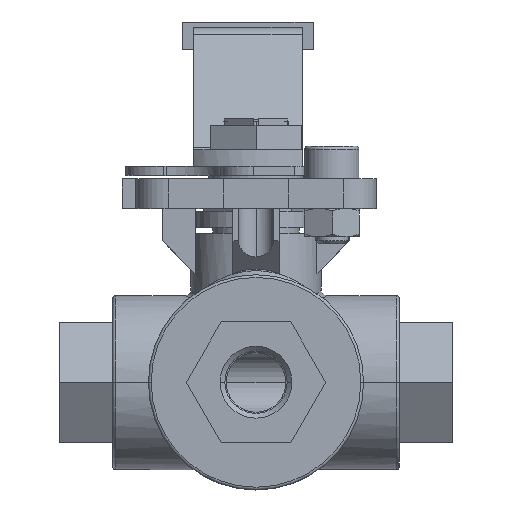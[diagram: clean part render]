
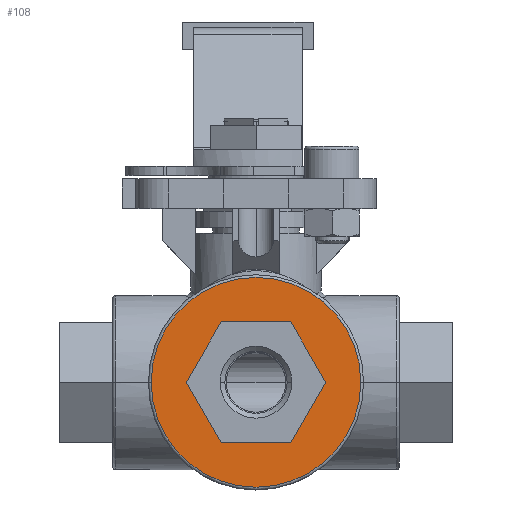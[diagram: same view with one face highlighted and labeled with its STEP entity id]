
A CAD part, top view. The second image highlights one B-rep face of the part: STEP entity #108.
In plain terms, the highlighted planar face has unit normal (0, 0, 1).
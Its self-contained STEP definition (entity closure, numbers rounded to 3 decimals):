
#108 = ADVANCED_FACE ( 'NONE', ( #10022, #10017 ), #10024, .T. ) ;
#272 = EDGE_CURVE ( 'NONE', #644, #641, #2556, .T. ) ;
#511 = ORIENTED_EDGE ( 'NONE', *, *, #272, .T. ) ;
#512 = ORIENTED_EDGE ( 'NONE', *, *, #2293, .T. ) ;
#513 = ORIENTED_EDGE ( 'NONE', *, *, #2294, .F. ) ;
#514 = ORIENTED_EDGE ( 'NONE', *, *, #2295, .F. ) ;
#515 = ORIENTED_EDGE ( 'NONE', *, *, #2296, .F. ) ;
#516 = ORIENTED_EDGE ( 'NONE', *, *, #2297, .F. ) ;
#517 = ORIENTED_EDGE ( 'NONE', *, *, #2298, .F. ) ;
#518 = ORIENTED_EDGE ( 'NONE', *, *, #2299, .F. ) ;
#641 = VERTEX_POINT ( 'NONE', #9273 ) ;
#644 = VERTEX_POINT ( 'NONE', #9276 ) ;
#951 = VERTEX_POINT ( 'NONE', #9583 ) ;
#952 = VERTEX_POINT ( 'NONE', #9584 ) ;
#953 = VERTEX_POINT ( 'NONE', #9585 ) ;
#954 = VERTEX_POINT ( 'NONE', #9586 ) ;
#955 = VERTEX_POINT ( 'NONE', #9587 ) ;
#956 = VERTEX_POINT ( 'NONE', #9588 ) ;
#2293 = EDGE_CURVE ( 'NONE', #641, #644, #6091, .T. ) ;
#2294 = EDGE_CURVE ( 'NONE', #951, #954, #7224, .T. ) ;
#2295 = EDGE_CURVE ( 'NONE', #955, #951, #7227, .T. ) ;
#2296 = EDGE_CURVE ( 'NONE', #956, #955, #7226, .T. ) ;
#2297 = EDGE_CURVE ( 'NONE', #952, #956, #7231, .T. ) ;
#2298 = EDGE_CURVE ( 'NONE', #953, #952, #7234, .T. ) ;
#2299 = EDGE_CURVE ( 'NONE', #954, #953, #7237, .T. ) ;
#2556 = CIRCLE ( 'NONE', #2561, 19.3 ) ;
#2561 = AXIS2_PLACEMENT_3D ( 'NONE', #11697, #11698, #11699 ) ;
#6091 = CIRCLE ( 'NONE', #6094, 19.3 ) ;
#6092 = VECTOR ( 'NONE', #7235, 1000. ) ;
#6093 = VECTOR ( 'NONE', #7232, 1000. ) ;
#6094 = AXIS2_PLACEMENT_3D ( 'NONE', #7228, #7229, #7230 ) ;
#6095 = VECTOR ( 'NONE', #7238, 1000. ) ;
#6096 = VECTOR ( 'NONE', #7241, 1000. ) ;
#6097 = VECTOR ( 'NONE', #7244, 1000. ) ;
#6098 = VECTOR ( 'NONE', #7247, 1000. ) ;
#7221 = CARTESIAN_POINT ( 'NONE',  ( 12.817, 0., 25.75 ) ) ;
#7224 = LINE ( 'NONE', #7221, #6093 ) ;
#7226 = LINE ( 'NONE', #7236, #6095 ) ;
#7227 = LINE ( 'NONE', #7233, #6092 ) ;
#7228 = CARTESIAN_POINT ( 'NONE',  ( 0., 0., 25.75 ) ) ;
#7229 = DIRECTION ( 'NONE',  ( 0., 0., 1. ) ) ;
#7230 = DIRECTION ( 'NONE',  ( 1., 0., 0. ) ) ;
#7231 = LINE ( 'NONE', #7239, #6096 ) ;
#7232 = DIRECTION ( 'NONE',  ( -0.5, 0.866, 0. ) ) ;
#7233 = CARTESIAN_POINT ( 'NONE',  ( 6.409, -11.1, 25.75 ) ) ;
#7234 = LINE ( 'NONE', #7242, #6097 ) ;
#7235 = DIRECTION ( 'NONE',  ( 0.5, 0.866, 0. ) ) ;
#7236 = CARTESIAN_POINT ( 'NONE',  ( -6.409, -11.1, 25.75 ) ) ;
#7237 = LINE ( 'NONE', #7245, #6098 ) ;
#7238 = DIRECTION ( 'NONE',  ( 1., 0., 0. ) ) ;
#7239 = CARTESIAN_POINT ( 'NONE',  ( -12.817, 0., 25.75 ) ) ;
#7241 = DIRECTION ( 'NONE',  ( 0.5, -0.866, 0. ) ) ;
#7242 = CARTESIAN_POINT ( 'NONE',  ( -6.409, 11.1, 25.75 ) ) ;
#7244 = DIRECTION ( 'NONE',  ( -0.5, -0.866, 0. ) ) ;
#7245 = CARTESIAN_POINT ( 'NONE',  ( 6.409, 11.1, 25.75 ) ) ;
#7247 = DIRECTION ( 'NONE',  ( -1., 0., 0. ) ) ;
#7854 = AXIS2_PLACEMENT_3D ( 'NONE', #10021, #10019, #10026 ) ;
#9273 = CARTESIAN_POINT ( 'NONE',  ( -19.3, 0., 25.75 ) ) ;
#9276 = CARTESIAN_POINT ( 'NONE',  ( 19.3, 0., 25.75 ) ) ;
#9583 = CARTESIAN_POINT ( 'NONE',  ( 12.817, 0., 25.75 ) ) ;
#9584 = CARTESIAN_POINT ( 'NONE',  ( -12.817, 0., 25.75 ) ) ;
#9585 = CARTESIAN_POINT ( 'NONE',  ( -6.409, 11.1, 25.75 ) ) ;
#9586 = CARTESIAN_POINT ( 'NONE',  ( 6.409, 11.1, 25.75 ) ) ;
#9587 = CARTESIAN_POINT ( 'NONE',  ( 6.409, -11.1, 25.75 ) ) ;
#9588 = CARTESIAN_POINT ( 'NONE',  ( -6.409, -11.1, 25.75 ) ) ;
#10017 = FACE_BOUND ( 'NONE', #12263, .T. ) ;
#10019 = DIRECTION ( 'NONE',  ( 0., 0., 1. ) ) ;
#10021 = CARTESIAN_POINT ( 'NONE',  ( 0., 0., 25.75 ) ) ;
#10022 = FACE_OUTER_BOUND ( 'NONE', #12264, .T. ) ;
#10024 = PLANE ( 'NONE',  #7854 ) ;
#10026 = DIRECTION ( 'NONE',  ( 1., 0., 0. ) ) ;
#11697 = CARTESIAN_POINT ( 'NONE',  ( 0., 0., 25.75 ) ) ;
#11698 = DIRECTION ( 'NONE',  ( 0., 0., 1. ) ) ;
#11699 = DIRECTION ( 'NONE',  ( 1., 0., 0. ) ) ;
#12263 = EDGE_LOOP ( 'NONE', ( #513, #514, #515, #516, #517, #518 ) ) ;
#12264 = EDGE_LOOP ( 'NONE', ( #511, #512 ) ) ;
